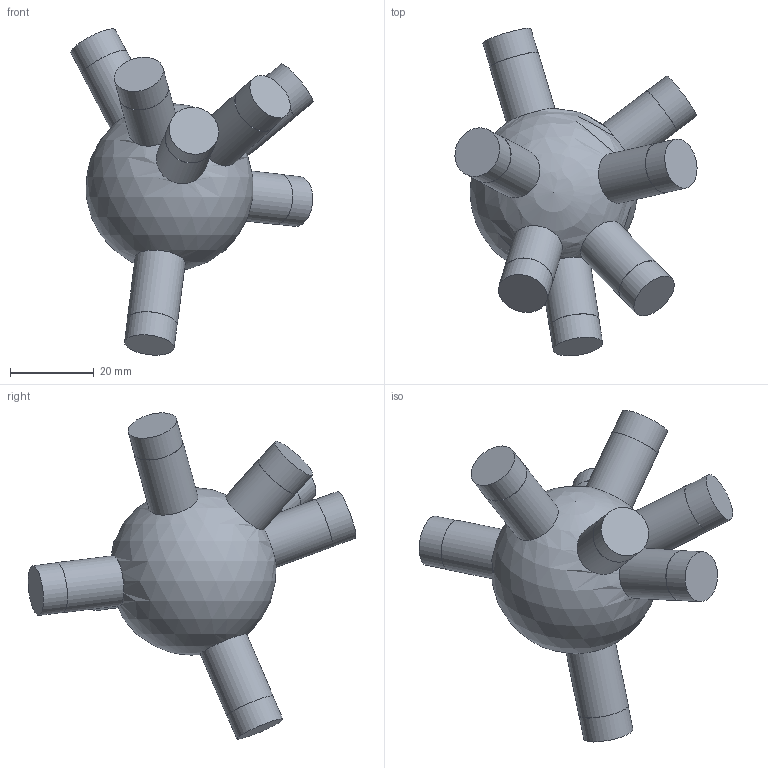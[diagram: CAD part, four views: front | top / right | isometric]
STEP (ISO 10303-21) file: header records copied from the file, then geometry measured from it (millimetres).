
FILE_DESCRIPTION(('Open CASCADE Model'),'2;1');
FILE_NAME('Open CASCADE Shape Model','2026-10-21T12:47:57',('Author'),( 'Open CASCADE'),'Open CASCADE STEP processor 7.9','Open CASCADE 7.9' ,'Unknown');
FILE_SCHEMA(('AUTOMOTIVE_DESIGN { 1 0 10303 214 1 1 1 1 }'));
Length unit declared in the file: millimetre
Products named in the file (1): Open CASCADE STEP translator 7.9 119
Bounding box: 57.66 x 78.06 x 77.71 mm (x, y, z)
Volume: 51443.7 mm3; surface area: 11134.6 mm2
Topology: 1 solids, 1 shells, 33 faces, 61 edges, 42 vertices
Faces by surface type: cylinder 16, plane 16, sphere 1
Full cylindrical faces by diameter (mm): 11.9 x8, 12 x8
Entity records: 2437 total; most frequent: CARTESIAN_POINT 1103, DIRECTION 269, ORIENTED_EDGE 120, PCURVE 120, DEFINITIONAL_REPRESENTATION 120, LINE 89, VECTOR 89, AXIS2_PLACEMENT_3D 78
